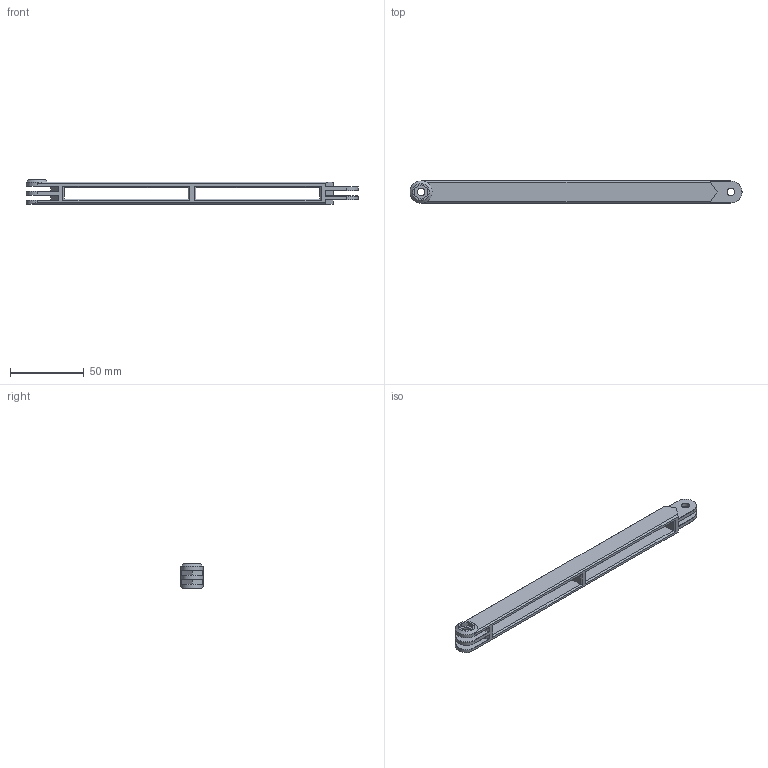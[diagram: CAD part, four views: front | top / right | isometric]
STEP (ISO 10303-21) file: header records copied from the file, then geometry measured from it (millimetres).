
FILE_DESCRIPTION(/* description */ ('STEP AP214'),/* implementation_level */ '2;1');
FILE_NAME(/* name */ '60a1433a25d25912eeacae28',/* time_stamp */ '2021-05-16T16:07:23+00:00',/* author */ (''),/* organization */ (''),/* preprocessor_version */ 'ST-DEVELOPER v18.1',/* originating_system */ ' ',/* authorisation */ ' ');
FILE_SCHEMA (('AUTOMOTIVE_DESIGN {1 0 10303 214 3 1 1}'));
Length unit declared in the file: metre
Products named in the file (1): Arm Straight
Bounding box: 225 x 15 x 16.8 mm (x, y, z)
Volume: 24962.3 mm3; surface area: 16780.6 mm2
Topology: 1 solids, 1 shells, 104 faces, 274 edges, 173 vertices
Faces by surface type: plane 84, cylinder 10, cone 10
Full cylindrical faces by diameter (mm): 5.3 x5
Entity records: 3117 total; most frequent: CARTESIAN_POINT 540, ORIENTED_EDGE 524, DIRECTION 505, EDGE_CURVE 262, LINE 225, VECTOR 225, VERTEX_POINT 167, AXIS2_PLACEMENT_3D 140
